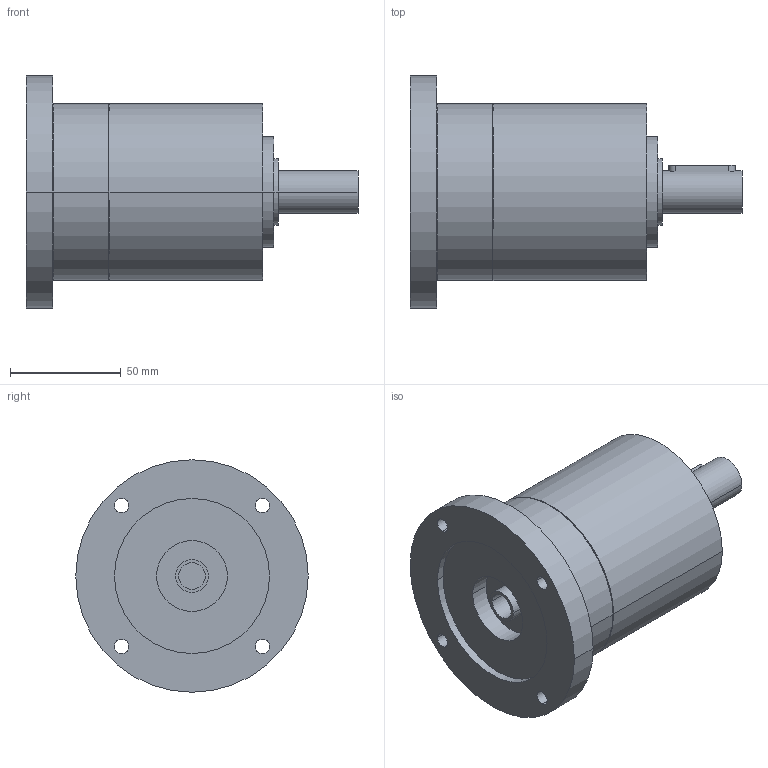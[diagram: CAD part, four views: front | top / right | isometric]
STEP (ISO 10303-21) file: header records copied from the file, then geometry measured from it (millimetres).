
FILE_DESCRIPTION(('CoCreate Modeling STEP Export'),'2;1');
FILE_NAME('GPR100_ig-3-4-5-6_19_B14_12_P12.stp','2014-08-26T10:06:00',(''),(''),'CoCreate Modeling STEP processor for AP214 (Solid Model)','CoCreate Modeling 16.00C 25-Feb-2009 (C) Parametric Technology GmbH','');
FILE_SCHEMA(('AUTOMOTIVE_DESIGN { 1 0 10303 214 1 1 1 1 }'));
Length unit declared in the file: millimetre
Products named in the file (2): GPR100_ig-3-4-5-6_19_B14_12_P12
Assembly tree (1 placements, depth 2):
  GPR100_ig-3-4-5-6_19_B14_12_P12
    GPR100_ig-3-4-5-6_19_B14_12_P12
Bounding box: 150 x 105 x 105 mm (x, y, z)
Volume: 576454.6 mm3; surface area: 53993.5 mm2
Topology: 1 solids, 1 shells, 76 faces, 202 edges, 144 vertices
Faces by surface type: cylinder 48, plane 22, cone 6
Entity records: 2022 total; most frequent: ORIENTED_EDGE 400, CARTESIAN_POINT 369, DIRECTION 262, EDGE_CURVE 200, VERTEX_POINT 144, EDGE_LOOP 102, AXIS2_PLACEMENT_3D 101, FACE_OUTER_BOUND 76
